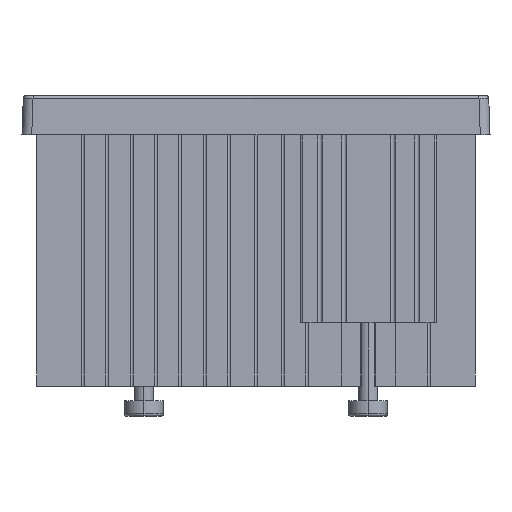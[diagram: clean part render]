
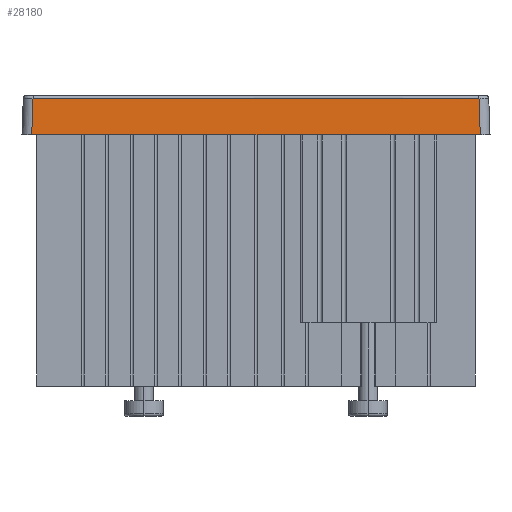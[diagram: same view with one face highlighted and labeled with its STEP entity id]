
A CAD part, left-side view. The second image highlights one B-rep face of the part: STEP entity #28180.
In plain terms, the highlighted planar face has unit normal (-0.999, 0, 0.035) as drawn and (0.999, 0, 0.035) by its records, which use the part's own axes.
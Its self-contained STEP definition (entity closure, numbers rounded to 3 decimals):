
#830=CARTESIAN_POINT('',(144.,1.999,0.));
#840=VERTEX_POINT('',#830);
#870=CARTESIAN_POINT('',(144.,0.,0.));
#880=DIRECTION('',(0.,1.,0.));
#890=VECTOR('',#880,1.);
#900=LINE('',#870,#890);
#910=CARTESIAN_POINT('',(144.,94.001,0.));
#920=VERTEX_POINT('',#910);
#930=EDGE_CURVE('',#840,#920,#900,.T.);
#27240=CARTESIAN_POINT('',(143.998,2.001,
0.07));
#27250=DIRECTION('',(-0.035,0.035,
0.999));
#27260=VECTOR('',#27250,1.);
#27270=LINE('',#27240,#27260);
#27280=CARTESIAN_POINT('',(143.737,2.261,
7.517));
#27290=VERTEX_POINT('',#27280);
#27300=EDGE_CURVE('',#840,#27290,#27270,.T.);
#27660=CARTESIAN_POINT('',(143.998,93.999,
0.07));
#27670=DIRECTION('',(-0.035,-0.035,
0.999));
#27680=VECTOR('',#27670,1.);
#27690=LINE('',#27660,#27680);
#27700=CARTESIAN_POINT('',(143.737,93.739,
7.517));
#27710=VERTEX_POINT('',#27700);
#27720=EDGE_CURVE('',#920,#27710,#27690,.T.);
#27990=CARTESIAN_POINT('',(144.,96.,0.));
#28000=DIRECTION('',(0.999,0.,0.035));
#28010=DIRECTION('',(0.,-1.,0.));
#28020=AXIS2_PLACEMENT_3D('',#27990,#28000,#28010);
#28030=PLANE('',#28020);
#28040=ORIENTED_EDGE('',*,*,#930,.T.);
#28050=ORIENTED_EDGE('',*,*,#27300,.F.);
#28060=CARTESIAN_POINT('',(143.737,2.261,
7.517));
#28070=CARTESIAN_POINT('',(143.737,2.284,
7.517));
#28080=CARTESIAN_POINT('',(143.737,2.308,
7.517));
#28090=CARTESIAN_POINT('',(143.737,32.8,
7.517));
#28100=CARTESIAN_POINT('',(143.737,63.269,
7.517));
#28110=CARTESIAN_POINT('',(143.737,93.739,
7.517));
#28120=B_SPLINE_CURVE_WITH_KNOTS('',3,(#28060,#28070,#28080,#28090,
#28100,#28110),.UNSPECIFIED.,.F.,.F.,(4,2,4),(0.,0.069,
91.477),.UNSPECIFIED.);
#28130=EDGE_CURVE('',#27290,#27710,#28120,.T.);
#28140=ORIENTED_EDGE('',*,*,#28130,.F.);
#28150=ORIENTED_EDGE('',*,*,#27720,.T.);
#28160=EDGE_LOOP('',(#28150,#28140,#28050,#28040));
#28170=FACE_OUTER_BOUND('',#28160,.T.);
#28180=ADVANCED_FACE('',(#28170),#28030,.T.);
